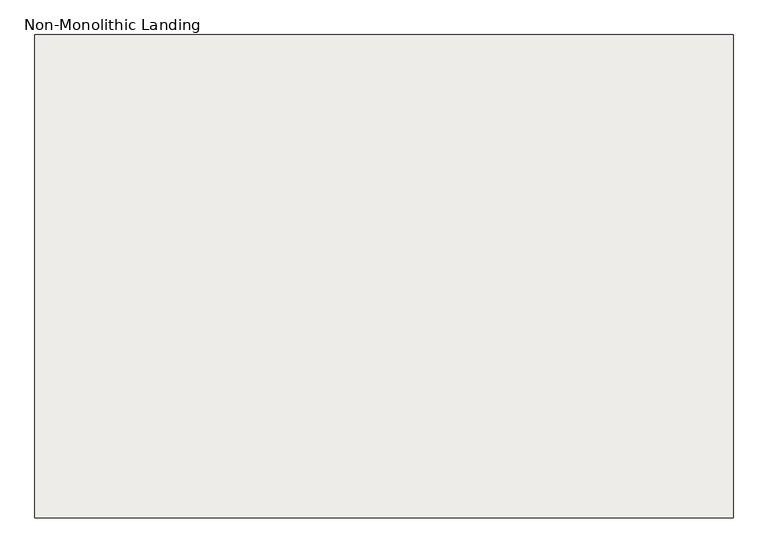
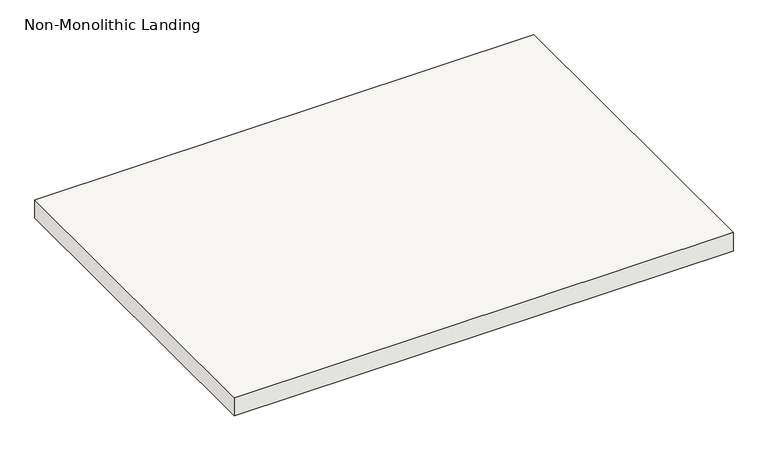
"""IFC4 building model written with IfcOpenShell, lengths in millimetres: slab geometry, Non-Monolithic Landing."""

from ifc_helpers import new_model, si_unit, frame, origin, place, context, project, spatial, polyline, outline, extrude, source, transform, mapped, element, save


def non_monolithic_landing_ba321032(model_context):
    return source(origin(), model_context, "Body", "SweptSolid", [
        extrude(outline(polyline([(32974.4048668, 22299.7361774), (34295.2048668, 22299.7361774), (34295.2048668, 21385.3361774), (32974.4048668, 21385.3361774), (32974.4048668, 22299.7361774)])), frame((0.0, 0.0, 2126.3428571), z_axis=(0.0, 0.0, 1.0), x_axis=(1.0, 0.0, 0.0)), (0.0, 0.0, 1.0), 50.8),
    ])


if __name__ == "__main__":
    model = new_model("IFC4")
    model_context = context("Model", 3, world=origin())
    ifc_project = project(units=[si_unit("LENGTHUNIT", "METRE", prefix="MILLI")], contexts=[model_context])
    site = spatial("IfcSite", under=ifc_project)
    building = spatial("IfcBuilding", under=site)
    placement = place(None, origin())
    non_monolithic_landing_shape = non_monolithic_landing_ba321032(model_context)
    element("IfcSlab", 1, ObjectType="Non-Monolithic Landing", at=placement, inside=building, context=model_context, shape_type="MappedRepresentation", body=[
        mapped(non_monolithic_landing_shape, transform((0.0, 0.0, 0.0), x_axis=(1.0, 0.0, 0.0), y_axis=(0.0, 1.0, 0.0), z_axis=(0.0, 0.0, 1.0))),
    ])
    save(model, "model.ifc")
